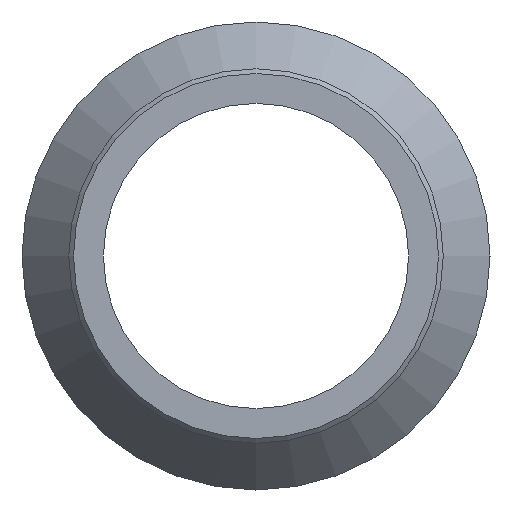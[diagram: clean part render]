
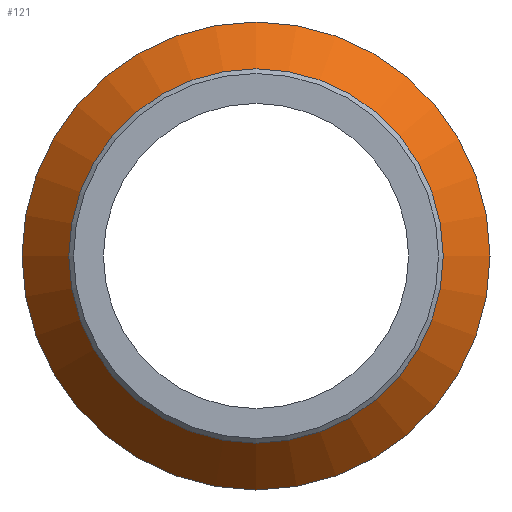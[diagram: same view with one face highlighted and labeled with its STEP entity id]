
A CAD part, left-side view. The second image highlights one B-rep face of the part: STEP entity #121.
In plain terms, the highlighted conical face has half-angle 39.806 degrees and reference radius 25 mm.
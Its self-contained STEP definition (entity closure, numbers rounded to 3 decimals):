
#22=CONICAL_SURFACE('',#146,25.,0.695);
#28=ORIENTED_EDGE('',*,*,#48,.F.);
#29=ORIENTED_EDGE('',*,*,#47,.T.);
#47=EDGE_CURVE('',#57,#57,#67,.T.);
#48=EDGE_CURVE('',#58,#58,#68,.T.);
#57=VERTEX_POINT('',#210);
#58=VERTEX_POINT('',#213);
#67=CIRCLE('',#145,25.);
#68=CIRCLE('',#147,20.);
#78=EDGE_LOOP('',(#28));
#79=EDGE_LOOP('',(#29));
#98=FACE_BOUND('',#78,.T.);
#99=FACE_BOUND('',#79,.T.);
#121=ADVANCED_FACE('',(#98,#99),#22,.T.);
#145=AXIS2_PLACEMENT_3D('',#209,#169,#170);
#146=AXIS2_PLACEMENT_3D('',#211,#171,#172);
#147=AXIS2_PLACEMENT_3D('',#212,#173,#174);
#169=DIRECTION('',(-1.,0.,0.));
#170=DIRECTION('',(0.,0.,1.));
#171=DIRECTION('',(1.,0.,0.));
#172=DIRECTION('',(0.,0.,-1.));
#173=DIRECTION('',(-1.,0.,0.));
#174=DIRECTION('',(0.,0.,1.));
#209=CARTESIAN_POINT('',(3.,0.,0.));
#210=CARTESIAN_POINT('',(3.,0.,25.));
#211=CARTESIAN_POINT('',(3.,0.,0.));
#212=CARTESIAN_POINT('',(-3.,0.,0.));
#213=CARTESIAN_POINT('',(-3.,0.,20.));
